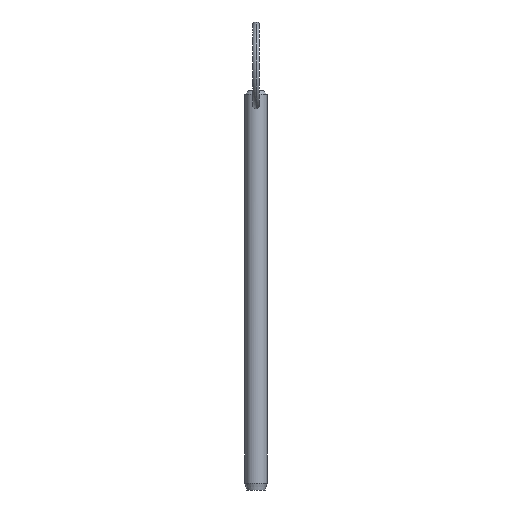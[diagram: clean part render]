
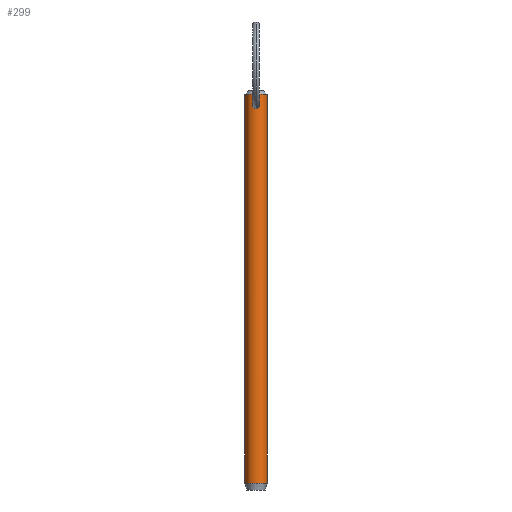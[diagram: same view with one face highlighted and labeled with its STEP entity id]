
A CAD part, front view. The second image highlights one B-rep face of the part: STEP entity #299.
In plain terms, the highlighted cylindrical face has radius 3.175 mm (diameter 6.35 mm), a partial arc.
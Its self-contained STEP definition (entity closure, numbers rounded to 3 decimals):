
#3 = CARTESIAN_POINT ( 'NONE',  ( 0., -3.175, 104.082 ) ) ;
#6 = EDGE_CURVE ( 'NONE', #364, #157, #136, .T. ) ;
#13 = EDGE_LOOP ( 'NONE', ( #73, #58, #406, #37 ) ) ;
#31 = B_SPLINE_CURVE_WITH_KNOTS ( 'NONE', 3,
 ( #3, #153, #38, #449, #156, #160, #77, #291, #196, #236, #152, #237, #114, #289, #206, #333 ),
 .UNSPECIFIED., .F., .F.,
 ( 4, 2, 2, 2, 2, 2, 2, 4 ),
 ( 0.003, 0.003, 0.004, 0.004, 0.005, 0.005, 0.006, 0.006 ),
 .UNSPECIFIED. ) ;
#33 = CARTESIAN_POINT ( 'NONE',  ( 3.175, 0., -5.92 ) ) ;
#37 = ORIENTED_EDGE ( 'NONE', *, *, #148, .T. ) ;
#38 = CARTESIAN_POINT ( 'NONE',  ( 0.269, -3.166, 104.05 ) ) ;
#40 = DIRECTION ( 'NONE',  ( 0., 0., -1. ) ) ;
#42 = CARTESIAN_POINT ( 'NONE',  ( -0.888, -3.049, 102.509 ) ) ;
#56 = CARTESIAN_POINT ( 'NONE',  ( -3.175, 0., 101.6 ) ) ;
#58 = ORIENTED_EDGE ( 'NONE', *, *, #339, .T. ) ;
#59 = CARTESIAN_POINT ( 'NONE',  ( 0., -3.175, 104.082 ) ) ;
#64 = VECTOR ( 'NONE', #40, 1000. ) ;
#69 = CARTESIAN_POINT ( 'NONE',  ( 0., 0., 106.18 ) ) ;
#70 = CIRCLE ( 'NONE', #99, 3.175 ) ;
#71 = CARTESIAN_POINT ( 'NONE',  ( -0.615, -3.116, 103.853 ) ) ;
#73 = ORIENTED_EDGE ( 'NONE', *, *, #452, .F. ) ;
#76 = CARTESIAN_POINT ( 'NONE',  ( -0.516, -3.135, 102.131 ) ) ;
#77 = CARTESIAN_POINT ( 'NONE',  ( 0.992, -3.016, 103.294 ) ) ;
#86 = ORIENTED_EDGE ( 'NONE', *, *, #481, .T. ) ;
#99 = AXIS2_PLACEMENT_3D ( 'NONE', #389, #173, #423 ) ;
#102 = DIRECTION ( 'NONE',  ( -1., 0., 0. ) ) ;
#111 = CARTESIAN_POINT ( 'NONE',  ( 0., -3.175, 102.003 ) ) ;
#112 = LINE ( 'NONE', #202, #64 ) ;
#114 = CARTESIAN_POINT ( 'NONE',  ( 0.515, -3.135, 102.13 ) ) ;
#115 = CARTESIAN_POINT ( 'NONE',  ( -0.983, -3.02, 102.759 ) ) ;
#131 = EDGE_LOOP ( 'NONE', ( #290, #86 ) ) ;
#136 = LINE ( 'NONE', #56, #233 ) ;
#141 = FACE_BOUND ( 'NONE', #131, .T. ) ;
#148 = EDGE_CURVE ( 'NONE', #157, #315, #70, .T. ) ;
#152 = CARTESIAN_POINT ( 'NONE',  ( 0.815, -3.07, 102.395 ) ) ;
#153 = CARTESIAN_POINT ( 'NONE',  ( 0.134, -3.175, 104.082 ) ) ;
#156 = CARTESIAN_POINT ( 'NONE',  ( 0.617, -3.116, 103.851 ) ) ;
#157 = VERTEX_POINT ( 'NONE', #420 ) ;
#160 = CARTESIAN_POINT ( 'NONE',  ( 0.884, -3.055, 103.557 ) ) ;
#173 = DIRECTION ( 'NONE',  ( 0., 0., 1. ) ) ;
#195 = DIRECTION ( 'NONE',  ( 0., 0., -1. ) ) ;
#196 = CARTESIAN_POINT ( 'NONE',  ( 0.982, -3.02, 102.758 ) ) ;
#199 = CARTESIAN_POINT ( 'NONE',  ( 0., -3.175, 104.082 ) ) ;
#200 = VERTEX_POINT ( 'NONE', #399 ) ;
#201 = CYLINDRICAL_SURFACE ( 'NONE', #417, 3.175 ) ;
#202 = CARTESIAN_POINT ( 'NONE',  ( 3.175, 0., 101.6 ) ) ;
#206 = CARTESIAN_POINT ( 'NONE',  ( 0.134, -3.175, 102.003 ) ) ;
#229 = CARTESIAN_POINT ( 'NONE',  ( 0., 0., 101.6 ) ) ;
#233 = VECTOR ( 'NONE', #460, 1000. ) ;
#236 = CARTESIAN_POINT ( 'NONE',  ( 0.888, -3.049, 102.509 ) ) ;
#237 = CARTESIAN_POINT ( 'NONE',  ( 0.628, -3.114, 102.204 ) ) ;
#240 = CARTESIAN_POINT ( 'NONE',  ( -0.067, -3.175, 104.082 ) ) ;
#241 = CARTESIAN_POINT ( 'NONE',  ( -1.004, -3.012, 102.895 ) ) ;
#261 = CARTESIAN_POINT ( 'NONE',  ( -0.264, -3.165, 104.044 ) ) ;
#262 = CARTESIAN_POINT ( 'NONE',  ( -0.134, -3.175, 102.003 ) ) ;
#264 = CARTESIAN_POINT ( 'NONE',  ( -0.629, -3.114, 102.205 ) ) ;
#279 = VERTEX_POINT ( 'NONE', #59 ) ;
#284 = CARTESIAN_POINT ( 'NONE',  ( -3.175, 0., 106.18 ) ) ;
#289 = CARTESIAN_POINT ( 'NONE',  ( 0.268, -3.166, 102.029 ) ) ;
#290 = ORIENTED_EDGE ( 'NONE', *, *, #444, .T. ) ;
#291 = CARTESIAN_POINT ( 'NONE',  ( 1.004, -3.012, 102.893 ) ) ;
#296 = AXIS2_PLACEMENT_3D ( 'NONE', #69, #195, #447 ) ;
#299 = ADVANCED_FACE ( 'NONE', ( #466, #141 ), #201, .T. ) ;
#310 = VERTEX_POINT ( 'NONE', #370 ) ;
#315 = VERTEX_POINT ( 'NONE', #33 ) ;
#327 = B_SPLINE_CURVE_WITH_KNOTS ( 'NONE', 3,
 ( #111, #262, #408, #76, #264, #379, #42, #115, #241, #338, #451, #71, #412, #332, #261, #373, #240, #199 ),
 .UNSPECIFIED., .F., .F.,
 ( 4, 2, 2, 2, 2, 2, 2, 2, 4 ),
 ( 0.006, 0.006, 0.007, 0.007, 0.008, 0.008, 0.009, 0.009, 0.009 ),
 .UNSPECIFIED. ) ;
#332 = CARTESIAN_POINT ( 'NONE',  ( -0.328, -3.159, 104.021 ) ) ;
#333 = CARTESIAN_POINT ( 'NONE',  ( 0., -3.175, 102.003 ) ) ;
#338 = CARTESIAN_POINT ( 'NONE',  ( -0.991, -3.016, 103.296 ) ) ;
#339 = EDGE_CURVE ( 'NONE', #310, #364, #470, .T. ) ;
#364 = VERTEX_POINT ( 'NONE', #284 ) ;
#370 = CARTESIAN_POINT ( 'NONE',  ( 3.175, 0., 106.18 ) ) ;
#373 = CARTESIAN_POINT ( 'NONE',  ( -0.133, -3.173, 104.074 ) ) ;
#379 = CARTESIAN_POINT ( 'NONE',  ( -0.815, -3.07, 102.395 ) ) ;
#389 = CARTESIAN_POINT ( 'NONE',  ( 0., 0., -5.92 ) ) ;
#399 = CARTESIAN_POINT ( 'NONE',  ( 0., -3.175, 102.003 ) ) ;
#404 = DIRECTION ( 'NONE',  ( 0., 0., -1. ) ) ;
#406 = ORIENTED_EDGE ( 'NONE', *, *, #6, .T. ) ;
#408 = CARTESIAN_POINT ( 'NONE',  ( -0.269, -3.166, 102.029 ) ) ;
#412 = CARTESIAN_POINT ( 'NONE',  ( -0.508, -3.136, 103.935 ) ) ;
#417 = AXIS2_PLACEMENT_3D ( 'NONE', #229, #404, #102 ) ;
#420 = CARTESIAN_POINT ( 'NONE',  ( -3.175, 0., -5.92 ) ) ;
#423 = DIRECTION ( 'NONE',  ( -1., 0., 0. ) ) ;
#444 = EDGE_CURVE ( 'NONE', #279, #200, #31, .T. ) ;
#447 = DIRECTION ( 'NONE',  ( 1., 0., 0. ) ) ;
#449 = CARTESIAN_POINT ( 'NONE',  ( 0.51, -3.136, 103.934 ) ) ;
#451 = CARTESIAN_POINT ( 'NONE',  ( -0.882, -3.055, 103.56 ) ) ;
#452 = EDGE_CURVE ( 'NONE', #310, #315, #112, .T. ) ;
#460 = DIRECTION ( 'NONE',  ( 0., 0., -1. ) ) ;
#466 = FACE_OUTER_BOUND ( 'NONE', #13, .T. ) ;
#470 = CIRCLE ( 'NONE', #296, 3.175 ) ;
#481 = EDGE_CURVE ( 'NONE', #200, #279, #327, .T. ) ;
